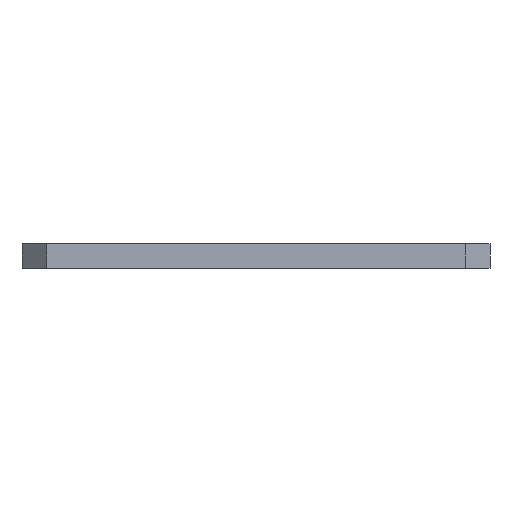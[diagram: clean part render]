
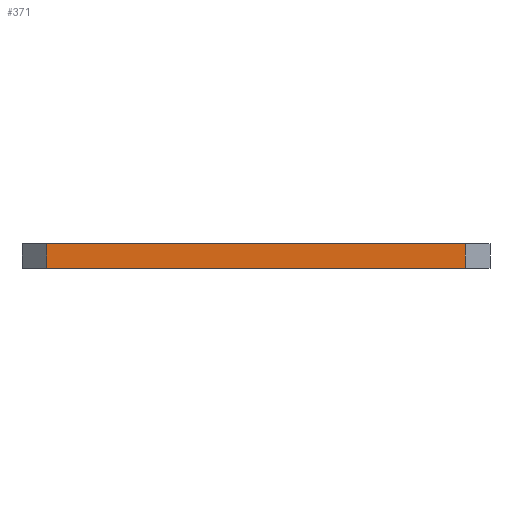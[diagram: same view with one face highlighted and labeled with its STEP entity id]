
A CAD part, left-side view. The second image highlights one B-rep face of the part: STEP entity #371.
In plain terms, the highlighted planar face has unit normal (-1, 0, 0).
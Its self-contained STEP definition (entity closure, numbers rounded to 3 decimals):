
#111 = ORIENTED_EDGE ( 'NONE', *, *, #847, .T. ) ;
#117 = AXIS2_PLACEMENT_3D ( 'NONE', #1633, #481, #812 ) ;
#198 = CARTESIAN_POINT ( 'NONE',  ( -42., -48., 0. ) ) ;
#266 = DIRECTION ( 'NONE',  ( 0., -1., 0. ) ) ;
#371 = ADVANCED_FACE ( 'NONE', ( #666 ), #832, .F. ) ;
#396 = LINE ( 'NONE', #691, #1784 ) ;
#437 = CARTESIAN_POINT ( 'NONE',  ( -42., 37., 0. ) ) ;
#481 = DIRECTION ( 'NONE',  ( 1., 0., 0. ) ) ;
#551 = DIRECTION ( 'NONE',  ( 0., 0., -1. ) ) ;
#609 = VERTEX_POINT ( 'NONE', #682 ) ;
#648 = ORIENTED_EDGE ( 'NONE', *, *, #1730, .T. ) ;
#666 = FACE_OUTER_BOUND ( 'NONE', #1476, .T. ) ;
#682 = CARTESIAN_POINT ( 'NONE',  ( -42., -48., 5. ) ) ;
#691 = CARTESIAN_POINT ( 'NONE',  ( -42., -48., 5. ) ) ;
#764 = VECTOR ( 'NONE', #266, 1000. ) ;
#812 = DIRECTION ( 'NONE',  ( 0., 0., -1. ) ) ;
#832 = PLANE ( 'NONE',  #117 ) ;
#847 = EDGE_CURVE ( 'NONE', #1014, #1574, #1434, .T. ) ;
#899 = CARTESIAN_POINT ( 'NONE',  ( -42., 37., 5. ) ) ;
#950 = LINE ( 'NONE', #1716, #764 ) ;
#1014 = VERTEX_POINT ( 'NONE', #1946 ) ;
#1161 = EDGE_CURVE ( 'NONE', #609, #2084, #396, .T. ) ;
#1377 = DIRECTION ( 'NONE',  ( 0., 0., -1. ) ) ;
#1434 = LINE ( 'NONE', #899, #1963 ) ;
#1476 = EDGE_LOOP ( 'NONE', ( #648, #2065, #2045, #111 ) ) ;
#1574 = VERTEX_POINT ( 'NONE', #1833 ) ;
#1633 = CARTESIAN_POINT ( 'NONE',  ( -42., 37., 5. ) ) ;
#1716 = CARTESIAN_POINT ( 'NONE',  ( -42., 37., 5. ) ) ;
#1730 = EDGE_CURVE ( 'NONE', #1574, #2084, #2072, .T. ) ;
#1778 = EDGE_CURVE ( 'NONE', #1014, #609, #950, .T. ) ;
#1784 = VECTOR ( 'NONE', #551, 1000. ) ;
#1833 = CARTESIAN_POINT ( 'NONE',  ( -42., 37., 0. ) ) ;
#1946 = CARTESIAN_POINT ( 'NONE',  ( -42., 37., 5. ) ) ;
#1963 = VECTOR ( 'NONE', #1377, 1000. ) ;
#2028 = VECTOR ( 'NONE', #2080, 1000. ) ;
#2045 = ORIENTED_EDGE ( 'NONE', *, *, #1778, .F. ) ;
#2065 = ORIENTED_EDGE ( 'NONE', *, *, #1161, .F. ) ;
#2072 = LINE ( 'NONE', #437, #2028 ) ;
#2080 = DIRECTION ( 'NONE',  ( 0., -1., 0. ) ) ;
#2084 = VERTEX_POINT ( 'NONE', #198 ) ;
